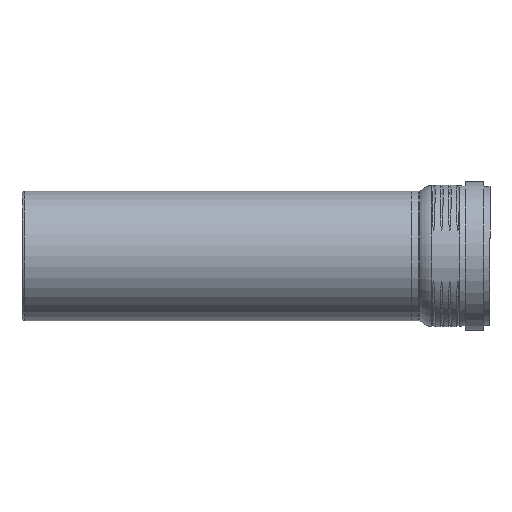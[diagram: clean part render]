
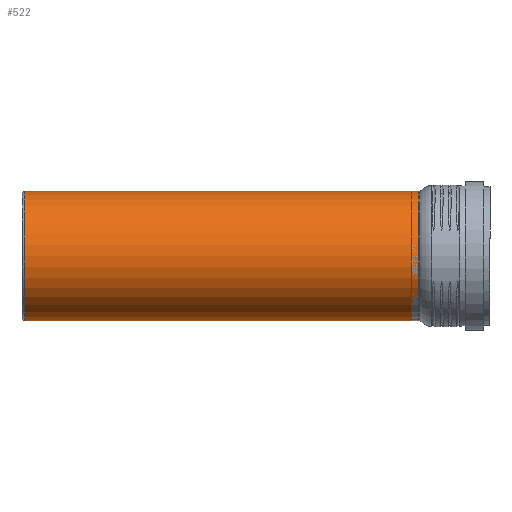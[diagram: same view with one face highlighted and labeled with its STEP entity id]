
A CAD part, top view. The second image highlights one B-rep face of the part: STEP entity #522.
In plain terms, the highlighted cylindrical face has radius 80.125 mm (diameter 160.25 mm), a full revolution.
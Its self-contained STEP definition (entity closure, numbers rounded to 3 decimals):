
#65=CYLINDRICAL_SURFACE('',#568,80.125);
#86=FACE_BOUND('',#158,.T.);
#122=FACE_OUTER_BOUND('',#157,.T.);
#157=EDGE_LOOP('',(#364));
#158=EDGE_LOOP('',(#365));
#223=CIRCLE('',#564,80.125);
#226=CIRCLE('',#569,80.125);
#248=VERTEX_POINT('',#756);
#251=VERTEX_POINT('',#764);
#301=EDGE_CURVE('',#248,#248,#223,.T.);
#304=EDGE_CURVE('',#251,#251,#226,.T.);
#364=ORIENTED_EDGE('',*,*,#304,.F.);
#365=ORIENTED_EDGE('',*,*,#301,.F.);
#522=ADVANCED_FACE('',(#122,#86),#65,.T.);
#564=AXIS2_PLACEMENT_3D('',#757,#630,#631);
#568=AXIS2_PLACEMENT_3D('',#763,#638,#639);
#569=AXIS2_PLACEMENT_3D('',#765,#640,#641);
#630=DIRECTION('center_axis',(-1.,0.,0.));
#631=DIRECTION('ref_axis',(0.,1.,0.));
#638=DIRECTION('center_axis',(1.,0.,0.));
#639=DIRECTION('ref_axis',(0.,1.,0.));
#640=DIRECTION('center_axis',(1.,0.,0.));
#641=DIRECTION('ref_axis',(0.,1.,0.));
#756=CARTESIAN_POINT('',(-242.5,-80.125,0.));
#757=CARTESIAN_POINT('Origin',(-242.5,0.,0.));
#763=CARTESIAN_POINT('Origin',(0.,0.,
0.));
#764=CARTESIAN_POINT('',(246.,-80.125,0.));
#765=CARTESIAN_POINT('Origin',(246.,0.,0.));
